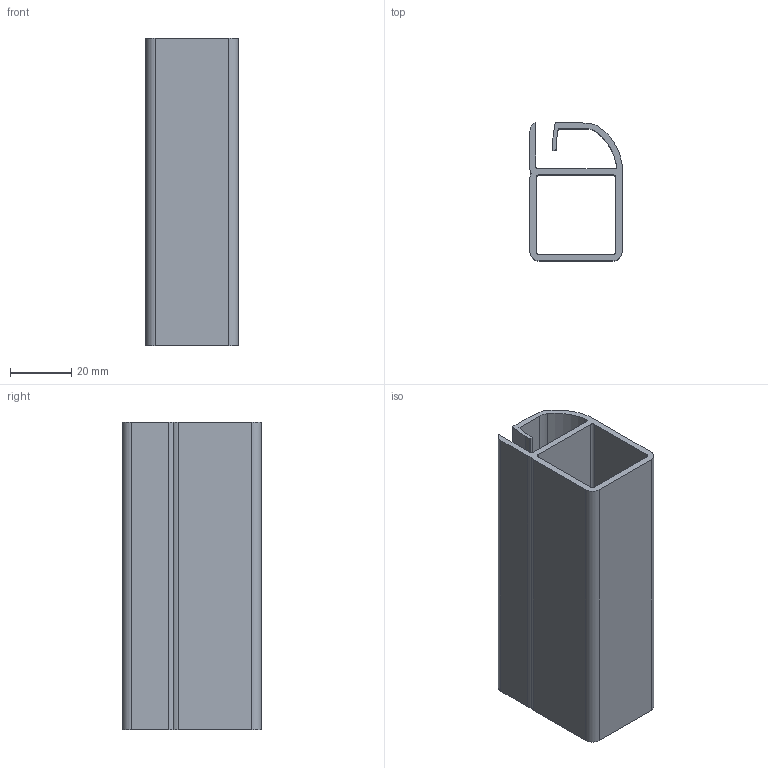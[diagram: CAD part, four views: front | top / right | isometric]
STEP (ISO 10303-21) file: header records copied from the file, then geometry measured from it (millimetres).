
FILE_DESCRIPTION (( 'STEP AP203' ), '1' );
FILE_NAME ('013.030.004.STEP', '2020-09-18T14:18:58', ( '' ), ( '' ), 'SwSTEP 2.0', 'SolidWorks 2018', '' );
FILE_SCHEMA (( 'CONFIG_CONTROL_DESIGN' ));
Length unit declared in the file: millimetre
Products named in the file (1): 013.030.004
Bounding box: 30 x 45 x 100 mm (x, y, z)
Volume: 31326.3 mm3; surface area: 32712.4 mm2
Topology: 1 solids, 1 shells, 39 faces, 111 edges, 74 vertices
Faces by surface type: plane 20, cylinder 17, bspline 2
Entity records: 1384 total; most frequent: CARTESIAN_POINT 263, ORIENTED_EDGE 222, DIRECTION 217, EDGE_CURVE 111, VERTEX_POINT 74, VECTOR 73, LINE 73, AXIS2_PLACEMENT_3D 72
